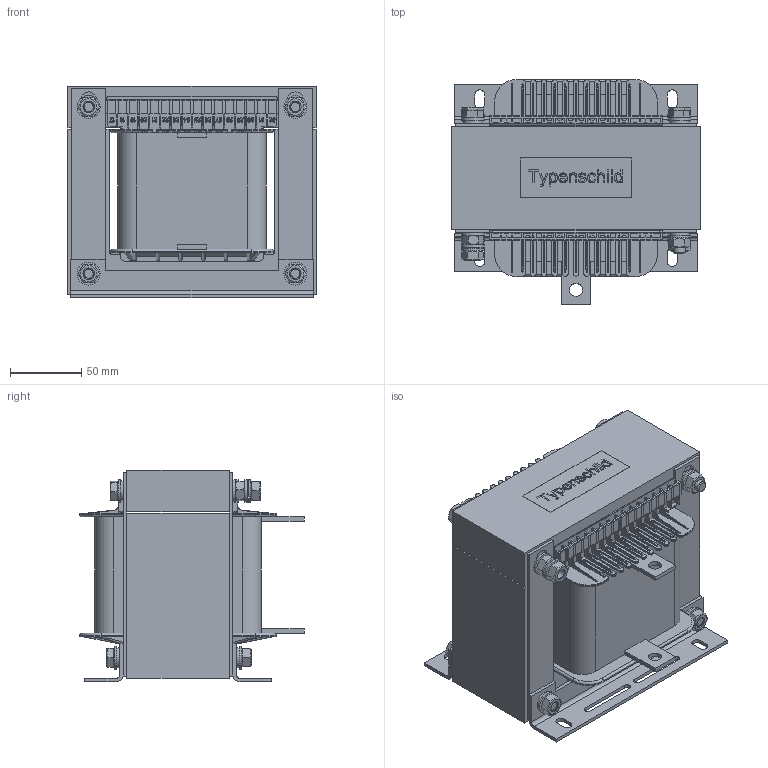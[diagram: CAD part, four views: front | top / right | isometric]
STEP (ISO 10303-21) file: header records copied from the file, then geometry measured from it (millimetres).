
FILE_DESCRIPTION((''),'2;1');
FILE_NAME('C:\Users\fp1\CAD-Daten\DEG\DEG1,3 63.stp','2014-06-26T11:39:14',('FP1'),(''),'Autodesk Inventor 2013','Autodesk Inventor 2013','');
FILE_SCHEMA(('AUTOMOTIVE_DESIGN { 1 0 10303 214 1 1 1 1 }'));
Length unit declared in the file: millimetre
Products named in the file (1): Bauteil199
Bounding box: 174 x 157.5 x 148.62 mm (x, y, z)
Volume: 2241628.8 mm3; surface area: 281847.5 mm2
Topology: 1 solids, 1 shells, 3947 faces, 11321 edges, 7409 vertices
Faces by surface type: plane 3220, cylinder 484, bspline 102, torus 100, cone 41
Full cylindrical faces by diameter (mm): 6.647 x3, 8 x4, 8.1 x3, 8.4 x6, 9 x2, 9.8 x3, 10.5 x2, 11.63 x4, 14 x7, 16 x10
Entity records: 132287 total; most frequent: CARTESIAN_POINT 25665, ORIENTED_EDGE 22490, DIRECTION 19839, EDGE_CURVE 11245, VECTOR 9823, LINE 9823, VERTEX_POINT 7394, AXIS2_PLACEMENT_3D 5008
